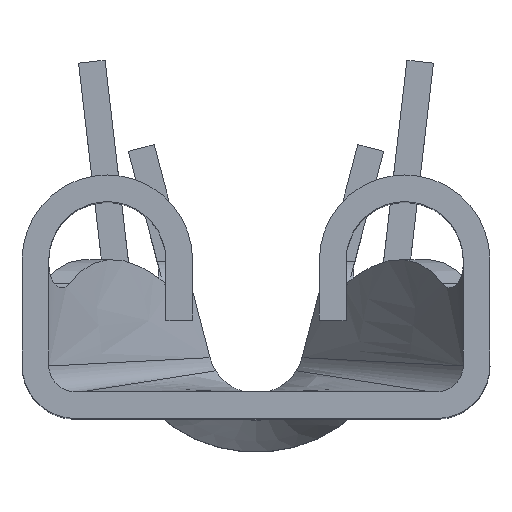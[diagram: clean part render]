
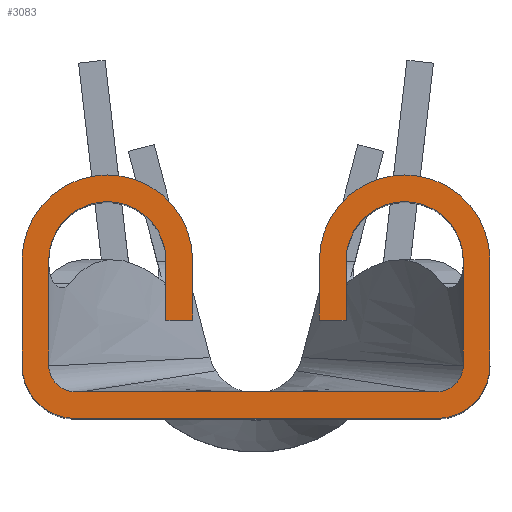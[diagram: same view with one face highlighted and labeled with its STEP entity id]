
A CAD part, top view. The second image highlights one B-rep face of the part: STEP entity #3083.
In plain terms, the highlighted planar face has unit normal (0, 0, 1).
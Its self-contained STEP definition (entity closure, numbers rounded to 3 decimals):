
#898=CARTESIAN_POINT('',(1.783,1.898,0.));
#899=DIRECTION('',(0.,0.,-1.));
#900=DIRECTION('',(-1.,0.,0.));
#901=AXIS2_PLACEMENT_3D('',#898,#899,#900);
#903=DIRECTION('',(0.,-1.,0.));
#904=VECTOR('',#903,1.257);
#905=CARTESIAN_POINT('',(2.805,1.897,0.));
#906=LINE('',#905,#904);
#907=CARTESIAN_POINT('',(2.165,0.64,0.));
#908=DIRECTION('',(0.,0.,-1.));
#909=DIRECTION('',(1.,0.,0.));
#910=AXIS2_PLACEMENT_3D('',#907,#908,#909);
#912=DIRECTION('',(-1.,0.,0.));
#913=VECTOR('',#912,4.33);
#914=CARTESIAN_POINT('',(2.165,0.,0.));
#915=LINE('',#914,#913);
#916=CARTESIAN_POINT('',(-2.165,0.64,0.));
#917=DIRECTION('',(0.,0.,-1.));
#918=DIRECTION('',(0.,-1.,0.));
#919=AXIS2_PLACEMENT_3D('',#916,#917,#918);
#921=DIRECTION('',(0.,1.,0.));
#922=VECTOR('',#921,1.258);
#923=CARTESIAN_POINT('',(-2.805,0.64,0.));
#924=LINE('',#923,#922);
#925=CARTESIAN_POINT('',(-1.783,1.898,0.));
#926=DIRECTION('',(0.,0.,-1.));
#927=DIRECTION('',(-1.,0.,0.));
#928=AXIS2_PLACEMENT_3D('',#925,#926,#927);
#930=DIRECTION('',(0.,-1.,0.));
#931=VECTOR('',#930,0.718);
#932=CARTESIAN_POINT('',(-0.76,1.898,0.));
#933=LINE('',#932,#931);
#934=DIRECTION('',(-1.,0.,0.));
#935=VECTOR('',#934,0.32);
#936=CARTESIAN_POINT('',(-0.76,1.18,0.));
#937=LINE('',#936,#935);
#938=DIRECTION('',(0.,1.,0.));
#939=VECTOR('',#938,0.718);
#940=CARTESIAN_POINT('',(-1.08,1.18,0.));
#941=LINE('',#940,#939);
#942=CARTESIAN_POINT('',(-1.783,1.898,0.));
#943=DIRECTION('',(0.,0.,1.));
#944=DIRECTION('',(1.,0.,0.));
#945=AXIS2_PLACEMENT_3D('',#942,#943,#944);
#947=DIRECTION('',(0.,-1.,0.));
#948=VECTOR('',#947,1.257);
#949=CARTESIAN_POINT('',(-2.485,1.897,0.));
#950=LINE('',#949,#948);
#951=CARTESIAN_POINT('',(-2.165,0.64,0.));
#952=DIRECTION('',(0.,0.,1.));
#953=DIRECTION('',(-1.,0.,0.));
#954=AXIS2_PLACEMENT_3D('',#951,#952,#953);
#956=DIRECTION('',(1.,0.,0.));
#957=VECTOR('',#956,4.33);
#958=CARTESIAN_POINT('',(-2.165,0.32,0.));
#959=LINE('',#958,#957);
#960=CARTESIAN_POINT('',(2.165,0.64,0.));
#961=DIRECTION('',(0.,0.,1.));
#962=DIRECTION('',(0.,-1.,0.));
#963=AXIS2_PLACEMENT_3D('',#960,#961,#962);
#965=DIRECTION('',(0.,1.,0.));
#966=VECTOR('',#965,1.258);
#967=CARTESIAN_POINT('',(2.485,0.64,0.));
#968=LINE('',#967,#966);
#969=CARTESIAN_POINT('',(1.783,1.898,0.));
#970=DIRECTION('',(0.,0.,1.));
#971=DIRECTION('',(1.,0.,0.));
#972=AXIS2_PLACEMENT_3D('',#969,#970,#971);
#974=DIRECTION('',(0.,-1.,0.));
#975=VECTOR('',#974,0.718);
#976=CARTESIAN_POINT('',(1.08,1.898,0.));
#977=LINE('',#976,#975);
#978=DIRECTION('',(-1.,0.,0.));
#979=VECTOR('',#978,0.32);
#980=CARTESIAN_POINT('',(1.08,1.18,0.));
#981=LINE('',#980,#979);
#982=DIRECTION('',(0.,1.,0.));
#983=VECTOR('',#982,0.718);
#984=CARTESIAN_POINT('',(0.76,1.18,0.));
#985=LINE('',#984,#983);
#1252=CARTESIAN_POINT('',(-2.485,1.897,0.));
#1253=VERTEX_POINT('',#1252);
#1254=CARTESIAN_POINT('',(-1.08,1.898,0.));
#1255=VERTEX_POINT('',#1254);
#1257=CARTESIAN_POINT('',(-2.485,0.64,0.));
#1258=VERTEX_POINT('',#1257);
#1263=CARTESIAN_POINT('',(-2.805,1.898,0.));
#1264=VERTEX_POINT('',#1263);
#1265=CARTESIAN_POINT('',(-2.805,0.64,0.));
#1266=VERTEX_POINT('',#1265);
#1267=CARTESIAN_POINT('',(-0.76,1.898,0.));
#1268=VERTEX_POINT('',#1267);
#1269=CARTESIAN_POINT('',(-0.76,1.18,0.));
#1270=VERTEX_POINT('',#1269);
#1271=CARTESIAN_POINT('',(0.76,1.898,0.));
#1272=CARTESIAN_POINT('',(2.805,1.898,0.));
#1273=VERTEX_POINT('',#1271);
#1274=VERTEX_POINT('',#1272);
#1275=CARTESIAN_POINT('',(2.805,0.64,0.));
#1276=VERTEX_POINT('',#1275);
#1277=CARTESIAN_POINT('',(2.165,0.,0.));
#1278=VERTEX_POINT('',#1277);
#1279=CARTESIAN_POINT('',(-2.165,0.,0.));
#1280=VERTEX_POINT('',#1279);
#1281=CARTESIAN_POINT('',(-1.08,1.18,0.));
#1282=VERTEX_POINT('',#1281);
#1283=CARTESIAN_POINT('',(-2.165,0.32,0.));
#1284=VERTEX_POINT('',#1283);
#1285=CARTESIAN_POINT('',(2.165,0.32,0.));
#1286=VERTEX_POINT('',#1285);
#1287=CARTESIAN_POINT('',(2.485,0.64,0.));
#1288=VERTEX_POINT('',#1287);
#1289=CARTESIAN_POINT('',(2.485,1.898,0.));
#1290=VERTEX_POINT('',#1289);
#1291=CARTESIAN_POINT('',(1.08,1.898,0.));
#1292=VERTEX_POINT('',#1291);
#1293=CARTESIAN_POINT('',(1.08,1.18,0.));
#1294=VERTEX_POINT('',#1293);
#1295=CARTESIAN_POINT('',(0.76,1.18,0.));
#1296=VERTEX_POINT('',#1295);
#3048=CARTESIAN_POINT('',(0.,0.,0.));
#3049=DIRECTION('',(0.,0.,1.));
#3050=DIRECTION('',(1.,0.,0.));
#3051=AXIS2_PLACEMENT_3D('',#3048,#3049,#3050);
#3052=PLANE('',#3051);
#3053=ORIENTED_EDGE('',*,*,#2692,.T.);
#3054=ORIENTED_EDGE('',*,*,#2708,.T.);
#3056=ORIENTED_EDGE('',*,*,#3055,.T.);
#3058=ORIENTED_EDGE('',*,*,#3057,.T.);
#3059=ORIENTED_EDGE('',*,*,#2999,.T.);
#3060=ORIENTED_EDGE('',*,*,#3014,.T.);
#3061=ORIENTED_EDGE('',*,*,#3028,.T.);
#3062=ORIENTED_EDGE('',*,*,#3039,.T.);
#3064=ORIENTED_EDGE('',*,*,#3063,.T.);
#3066=ORIENTED_EDGE('',*,*,#3065,.T.);
#3067=ORIENTED_EDGE('',*,*,#2208,.T.);
#3068=ORIENTED_EDGE('',*,*,#2224,.T.);
#3069=ORIENTED_EDGE('',*,*,#2377,.T.);
#3070=ORIENTED_EDGE('',*,*,#2396,.T.);
#3071=ORIENTED_EDGE('',*,*,#2555,.T.);
#3072=ORIENTED_EDGE('',*,*,#2570,.T.);
#3074=ORIENTED_EDGE('',*,*,#3073,.T.);
#3076=ORIENTED_EDGE('',*,*,#3075,.T.);
#3078=ORIENTED_EDGE('',*,*,#3077,.T.);
#3080=ORIENTED_EDGE('',*,*,#3079,.T.);
#3081=EDGE_LOOP('',(#3053,#3054,#3056,#3058,#3059,#3060,#3061,#3062,#3064,#3066,
#3067,#3068,#3069,#3070,#3071,#3072,#3074,#3076,#3078,#3080));
#3082=FACE_OUTER_BOUND('',#3081,.F.);
#3083=ADVANCED_FACE('',(#3082),#3052,.T.);
#902=CIRCLE('',#901,1.023);
#911=CIRCLE('',#910,0.64);
#920=CIRCLE('',#919,0.64);
#929=CIRCLE('',#928,1.023);
#946=CIRCLE('',#945,0.703);
#955=CIRCLE('',#954,0.32);
#964=CIRCLE('',#963,0.32);
#973=CIRCLE('',#972,0.703);
#2208=EDGE_CURVE('',#1255,#1253,#946,.T.);
#2224=EDGE_CURVE('',#1253,#1258,#950,.T.);
#2377=EDGE_CURVE('',#1258,#1284,#955,.T.);
#2396=EDGE_CURVE('',#1284,#1286,#959,.T.);
#2555=EDGE_CURVE('',#1286,#1288,#964,.T.);
#2570=EDGE_CURVE('',#1288,#1290,#968,.T.);
#2692=EDGE_CURVE('',#1273,#1274,#902,.T.);
#2708=EDGE_CURVE('',#1274,#1276,#906,.T.);
#2999=EDGE_CURVE('',#1280,#1266,#920,.T.);
#3014=EDGE_CURVE('',#1266,#1264,#924,.T.);
#3028=EDGE_CURVE('',#1264,#1268,#929,.T.);
#3039=EDGE_CURVE('',#1268,#1270,#933,.T.);
#3055=EDGE_CURVE('',#1276,#1278,#911,.T.);
#3057=EDGE_CURVE('',#1278,#1280,#915,.T.);
#3063=EDGE_CURVE('',#1270,#1282,#937,.T.);
#3065=EDGE_CURVE('',#1282,#1255,#941,.T.);
#3073=EDGE_CURVE('',#1290,#1292,#973,.T.);
#3075=EDGE_CURVE('',#1292,#1294,#977,.T.);
#3077=EDGE_CURVE('',#1294,#1296,#981,.T.);
#3079=EDGE_CURVE('',#1296,#1273,#985,.T.);
